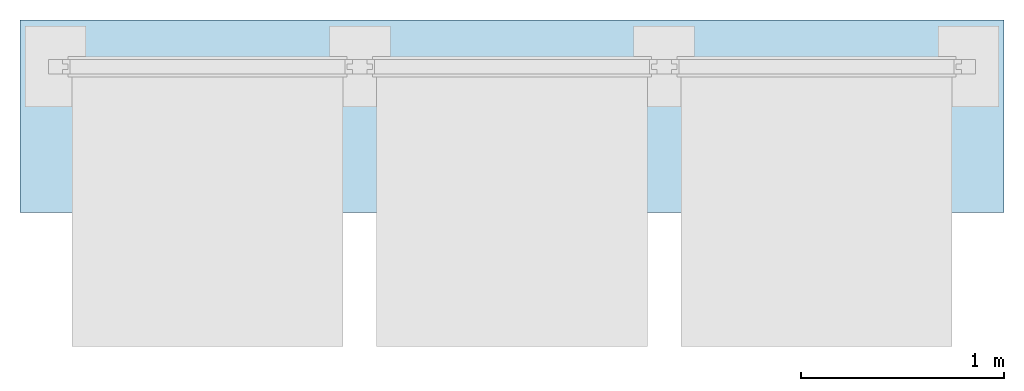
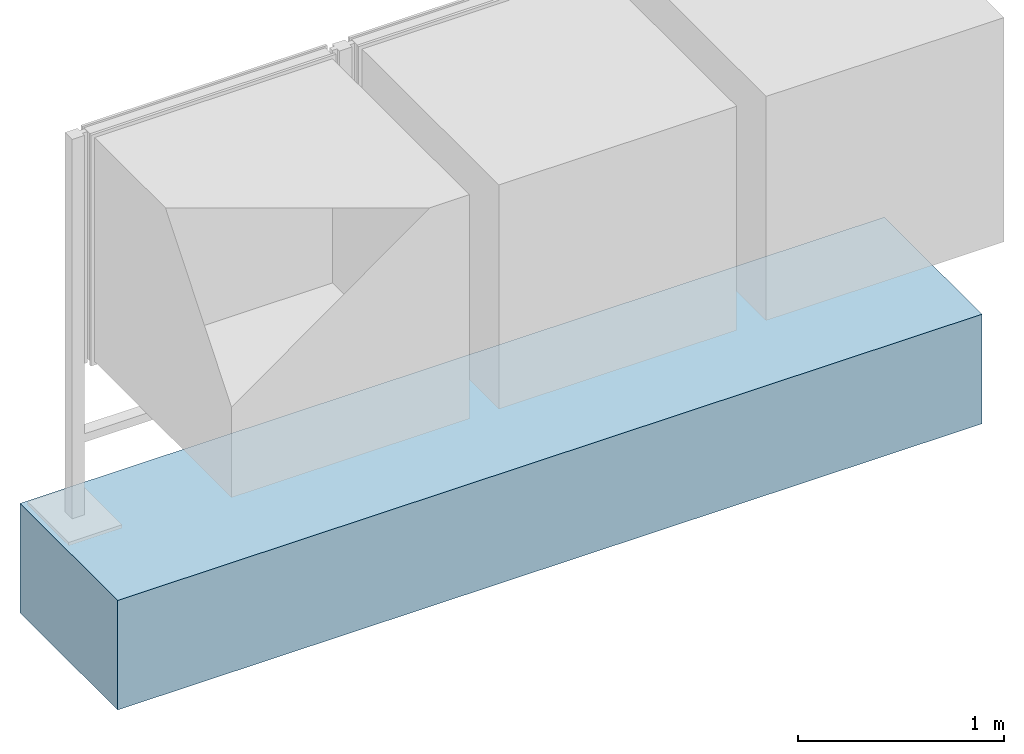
# One storey, incomplete: 1 slab.
"""IFC4 building model written with IfcOpenShell, lengths in metres."""

from ifc_helpers import new_model, entity, si_unit, converted_unit, direction, frame, frame_2d, origin, origin_2d_with_axis, place, context, subcontext, project, spatial, rectangle, extrude, material, type_object, element, save


model = new_model("IFC4")

# Units and contexts
model_context = context("Model", 3, precision=1e-05, world=origin(), true_north=direction((6.123031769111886e-17, 1.0)))
body_context = subcontext(model_context, "Body", "Model", "MODEL_VIEW")
ifc_project = project(units=[si_unit("LENGTHUNIT", "METRE"), converted_unit("PLANEANGLEUNIT", "DEGREE", entity("IfcPlaneAngleMeasure", 0.017453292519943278), si_unit("PLANEANGLEUNIT", "RADIAN"), dimensions=[0, 0, 0, 0, 0, 0, 0]), si_unit("AREAUNIT", "SQUARE_METRE")], contexts=[model_context])

# Site, building, storey
site_placement = place(None, origin())
site = spatial("IfcSite", under=ifc_project, at=site_placement, Name="Default", CompositionType="ELEMENT")
building_placement = place(site_placement, origin())
building = spatial("IfcBuilding", under=site, at=building_placement, CompositionType="ELEMENT")
storey_placement = place(building_placement, origin())
storey = spatial("IfcBuildingStorey", under=building, at=storey_placement, Name="Ebene 0", CompositionType="ELEMENT", Elevation=0.0)

# Slab
ifc_material = material(Name="DB_Magerbeton", Category="DB_Beton")
slab_type = type_object("IfcSlabType", Name="DB_Vitrine_Fundament_dreifeldrig_Windlastzone_1_2:DB_Vitrine_Fundament_dreifeldrig_Windlastzone_1_2", PredefinedType="BASESLAB", material=ifc_material)
slab_placement = place(storey_placement, origin())
element("IfcSlab", 1, at=slab_placement, inside=storey, type_object=slab_type, Name="DB_Vitrine_Fundament_dreifeldrig_Windlastzone_1_2:DB_Vitrine_Fundament_dreifeldrig_Windlastzone_1_2", ObjectType="DB_Vitrine_Fundament_dreifeldrig_Windlastzone_1_2:DB_Vitrine_Fundament_dreifeldrig_Windlastzone_1_2", PredefinedType="BASESLAB", context=body_context, shape_type="SweptSolid", body=[
    extrude(rectangle(XDim=0.9500000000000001, YDim=4.85, at=origin_2d_with_axis()), frame((2.2500000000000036, -0.244999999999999, 0.0), z_axis=(0.0, 0.0, 1.0), x_axis=(0.0, -1.0, 0.0)), (0.0, 0.0, 1.0), 0.04999999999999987),
    extrude(rectangle(XDim=4.85, YDim=0.95, at=frame_2d((0.0, 2.7755575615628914e-17), x_axis=(1.0, 0.0))), frame((2.250000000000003, -0.2449999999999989, 0.04999999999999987), z_axis=(0.0, 0.0, 1.0), x_axis=(-1.0, 0.0, 0.0)), (0.0, 0.0, 1.0), 0.5999999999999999),
])

save(model, "model.ifc")
